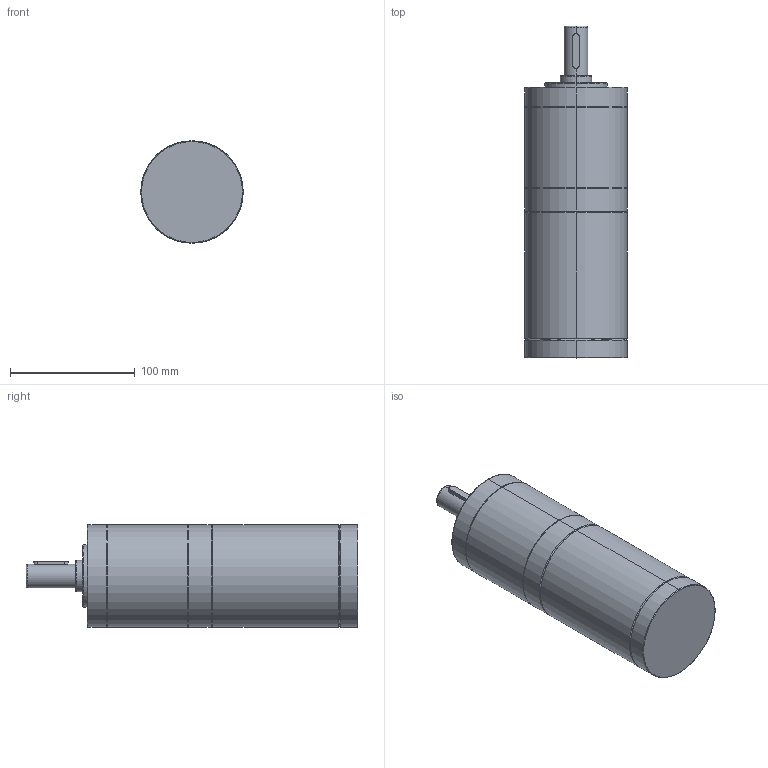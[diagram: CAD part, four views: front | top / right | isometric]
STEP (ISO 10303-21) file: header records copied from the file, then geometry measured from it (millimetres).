
FILE_DESCRIPTION (( 'STEP AP203' ), '1' );
FILE_NAME ('Z82BLDPN300W熬厒掀媼撰淕儂.STEP', '2021-07-16T05:18:09', ( '' ), ( '' ), 'SwSTEP 2.0', 'SolidWorks 2021', '' );
FILE_SCHEMA (( 'CONFIG_CONTROL_DESIGN' ));
Length unit declared in the file: millimetre
Products named in the file (3): Z82BLDPN300W熬厒掀媼撰淕儂; 82PN媼撰; 82酗
Assembly tree (2 placements, depth 2):
  Z82BLDPN300W熬厒掀媼撰淕儂
    82PN媼撰
    82酗
Bounding box: 82 x 266 x 82 mm (x, y, z)
Volume: 1152129.9 mm3; surface area: 84337.2 mm2
Topology: 2 solids, 2 shells, 155 faces, 337 edges, 199 vertices
Faces by surface type: cylinder 50, plane 49, cone 32, bspline 20, torus 4
Entity records: 4704 total; most frequent: CARTESIAN_POINT 1106, DIRECTION 725, ORIENTED_EDGE 654, EDGE_CURVE 327, AXIS2_PLACEMENT_3D 282, VERTEX_POINT 199, EDGE_LOOP 178, LINE 161
